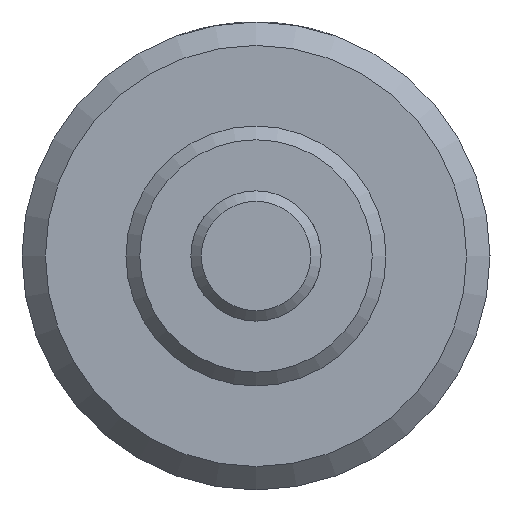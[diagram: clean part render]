
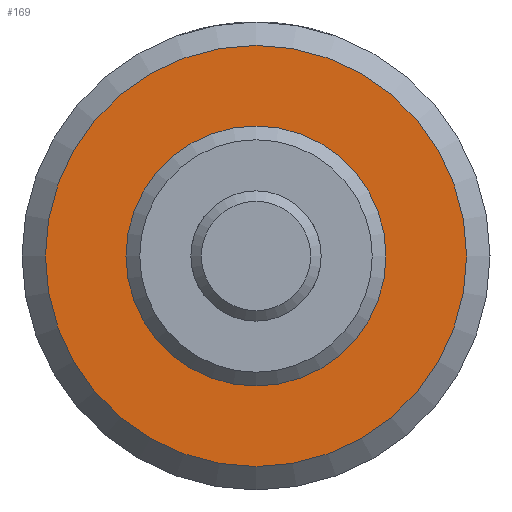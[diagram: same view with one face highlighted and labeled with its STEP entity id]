
A CAD part, left-side view. The second image highlights one B-rep face of the part: STEP entity #169.
In plain terms, the highlighted planar face has unit normal (-1, 0, 0).
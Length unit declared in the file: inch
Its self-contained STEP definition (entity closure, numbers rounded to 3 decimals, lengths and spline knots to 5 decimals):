
#169 = ADVANCED_FACE( '', ( #365, #366 ), #367, .F. );
#365 = FACE_OUTER_BOUND( '', #613, .T. );
#366 = FACE_BOUND( '', #614, .T. );
#367 = PLANE( '', #615 );
#613 = EDGE_LOOP( '', ( #930 ) );
#614 = EDGE_LOOP( '', ( #931 ) );
#615 = AXIS2_PLACEMENT_3D( '', #932, #933, #934 );
#930 = ORIENTED_EDGE( '', *, *, #1326, .F. );
#931 = ORIENTED_EDGE( '', *, *, #1327, .T. );
#932 = CARTESIAN_POINT( '', ( 0.5, 0.312, 0. ) );
#933 = DIRECTION( '', ( 1., 0., 0. ) );
#934 = DIRECTION( '', ( 0., 0., -1. ) );
#1326 = EDGE_CURVE( '', #1546, #1546, #1547, .T. );
#1327 = EDGE_CURVE( '', #1548, #1548, #1549, .T. );
#1546 = VERTEX_POINT( '', #1968 );
#1547 = CIRCLE( '', #1969, 0.50625 );
#1548 = VERTEX_POINT( '', #1970 );
#1549 = CIRCLE( '', #1971, 0.312 );
#1968 = CARTESIAN_POINT( '', ( 0.5, 0., -0.50625 ) );
#1969 = AXIS2_PLACEMENT_3D( '', #2237, #2238, #2239 );
#1970 = CARTESIAN_POINT( '', ( 0.5, 0., -0.312 ) );
#1971 = AXIS2_PLACEMENT_3D( '', #2240, #2241, #2242 );
#2237 = CARTESIAN_POINT( '', ( 0.5, 0., 0. ) );
#2238 = DIRECTION( '', ( 1., 0., 0. ) );
#2239 = DIRECTION( '', ( 0., 0., -1. ) );
#2240 = CARTESIAN_POINT( '', ( 0.5, 0., 0. ) );
#2241 = DIRECTION( '', ( 1., 0., 0. ) );
#2242 = DIRECTION( '', ( 0., 0., -1. ) );
